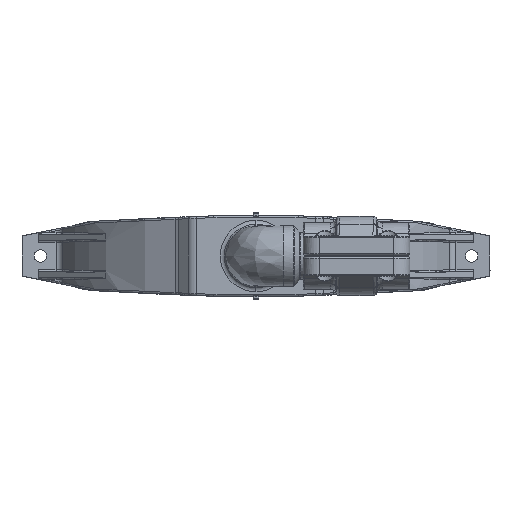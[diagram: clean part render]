
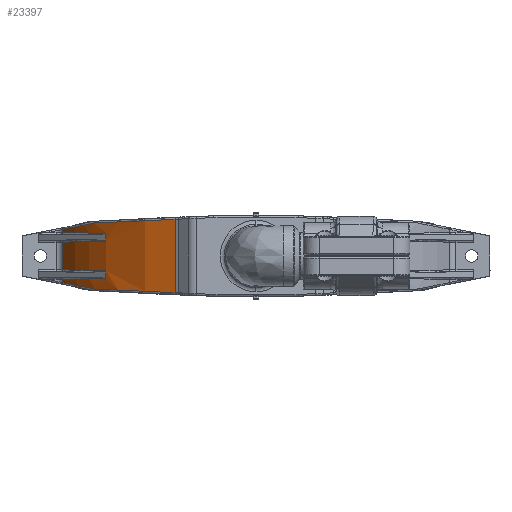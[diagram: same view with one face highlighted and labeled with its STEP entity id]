
A CAD part, front view. The second image highlights one B-rep face of the part: STEP entity #23397.
In plain terms, the highlighted cylindrical face has radius 119.405 mm (diameter 238.81 mm), a partial arc.
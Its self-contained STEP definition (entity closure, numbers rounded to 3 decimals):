
#3549=CARTESIAN_POINT('',(-89.445,-79.101,
-18.266));
#3554=CARTESIAN_POINT('',(-44.831,-110.669,
-20.29));
#3573=CARTESIAN_POINT('',(-107.071,-52.851,
-14.771));
#3730=CARTESIAN_POINT('',(-83.053,-85.789,
12.528));
#3849=CARTESIAN_POINT('',(-44.831,-110.669,
-20.291));
#3850=CARTESIAN_POINT('',(-44.964,-110.615,
-20.284));
#3851=CARTESIAN_POINT('',(-45.23,-110.507,
-20.272));
#3852=CARTESIAN_POINT('',(-45.76,-110.289,
-20.248));
#3853=CARTESIAN_POINT('',(-46.686,-109.901,
-20.205));
#3854=CARTESIAN_POINT('',(-48.532,-109.106,
-20.12));
#3855=CARTESIAN_POINT('',(-52.191,-107.432,
-19.952));
#3856=CARTESIAN_POINT('',(-57.319,-104.812,
-19.719));
#3857=CARTESIAN_POINT('',(-63.287,-101.316,
-19.449));
#3858=CARTESIAN_POINT('',(-69.04,-97.488,
-19.189));
#3859=CARTESIAN_POINT('',(-74.549,-93.345,
-18.94));
#3860=CARTESIAN_POINT('',(-78.927,-89.639,
-18.742));
#3861=CARTESIAN_POINT('',(-82.296,-86.529,
-18.59));
#3862=CARTESIAN_POINT('',(-84.345,-84.525,
-18.497));
#3863=CARTESIAN_POINT('',(-85.95,-82.887,
-18.424));
#3864=CARTESIAN_POINT('',(-87.135,-81.641,
-18.371));
#3865=CARTESIAN_POINT('',(-88.109,-80.589,
-18.326));
#3866=CARTESIAN_POINT('',(-88.782,-79.845,
-18.296));
#3867=CARTESIAN_POINT('',(-89.164,-79.418,
-18.279));
#3868=CARTESIAN_POINT('',(-89.354,-79.204,
-18.27));
#3869=CARTESIAN_POINT('',(-89.449,-79.097,
-18.266));
#3874=CARTESIAN_POINT('',(-89.445,-79.101,
-18.266));
#3875=CARTESIAN_POINT('',(-91.184,-77.132,
-17.921));
#3876=CARTESIAN_POINT('',(-94.533,-73.079,
-17.256));
#3877=CARTESIAN_POINT('',(-99.155,-66.669,
-16.341));
#3878=CARTESIAN_POINT('',(-103.389,-59.899,
-15.502));
#3879=CARTESIAN_POINT('',(-105.903,-55.217,
-15.003));
#3880=CARTESIAN_POINT('',(-107.071,-52.851,
-14.771));
#3885=DIRECTION('',(0.,0.,1.));
#3886=VECTOR('',#3885,1.663);
#3887=CARTESIAN_POINT('',(-107.071,-52.851,
-14.771));
#3888=LINE('',#3887,#3886);
#3892=CARTESIAN_POINT('',(-107.071,-52.851,
-13.108));
#3893=CARTESIAN_POINT('',(-101.025,-65.1,
-12.892));
#3894=CARTESIAN_POINT('',(-92.867,-76.287,
-12.695));
#3895=CARTESIAN_POINT('',(-83.053,-85.789,
-12.528));
#3900=DIRECTION('',(0.,0.,1.));
#3901=VECTOR('',#3900,4.312);
#3902=CARTESIAN_POINT('',(-83.053,-85.789,
-12.528));
#3903=LINE('',#3902,#3901);
#3907=CARTESIAN_POINT('',(-83.053,-85.789,
-8.216));
#3908=CARTESIAN_POINT('',(-92.867,-76.287,
-8.049));
#3909=CARTESIAN_POINT('',(-101.025,-65.1,
-7.852));
#3910=CARTESIAN_POINT('',(-107.071,-52.851,
-7.636));
#3915=DIRECTION('',(0.,0.,1.));
#3916=VECTOR('',#3915,15.273);
#3917=CARTESIAN_POINT('',(-107.071,-52.851,
-7.636));
#3918=LINE('',#3917,#3916);
#3922=CARTESIAN_POINT('',(-107.071,-52.851,
7.636));
#3923=CARTESIAN_POINT('',(-101.025,-65.1,
7.852));
#3924=CARTESIAN_POINT('',(-92.867,-76.287,
8.049));
#3925=CARTESIAN_POINT('',(-83.053,-85.789,
8.216));
#3930=DIRECTION('',(0.,0.,1.));
#3931=VECTOR('',#3930,4.312);
#3932=CARTESIAN_POINT('',(-83.053,-85.789,
8.216));
#3933=LINE('',#3932,#3931);
#3937=CARTESIAN_POINT('',(-83.053,-85.789,
12.528));
#3938=CARTESIAN_POINT('',(-92.867,-76.287,
12.695));
#3939=CARTESIAN_POINT('',(-101.025,-65.1,
12.892));
#3940=CARTESIAN_POINT('',(-107.071,-52.851,
13.108));
#3945=DIRECTION('',(0.,0.,1.));
#3946=VECTOR('',#3945,1.663);
#3947=CARTESIAN_POINT('',(-107.071,-52.851,
13.108));
#3948=LINE('',#3947,#3946);
#3952=CARTESIAN_POINT('',(-107.071,-52.851,
14.771));
#3953=CARTESIAN_POINT('',(-105.903,-55.218,
15.003));
#3954=CARTESIAN_POINT('',(-103.41,-59.871,
15.499));
#3955=CARTESIAN_POINT('',(-99.221,-66.58,
16.332));
#3956=CARTESIAN_POINT('',(-94.604,-72.994,
17.251));
#3957=CARTESIAN_POINT('',(-91.255,-77.052,
17.916));
#3958=CARTESIAN_POINT('',(-89.515,-79.022,
18.262));
#3963=CARTESIAN_POINT('',(-89.515,-79.022,
18.262));
#3964=CARTESIAN_POINT('',(-87.992,-80.747,
18.331));
#3965=CARTESIAN_POINT('',(-84.845,-84.108,
18.472));
#3966=CARTESIAN_POINT('',(-78.168,-90.453,
18.773));
#3967=CARTESIAN_POINT('',(-70.957,-96.206,
19.098));
#3968=CARTESIAN_POINT('',(-63.289,-101.312,
19.445));
#3969=CARTESIAN_POINT('',(-57.329,-104.806,
19.715));
#3970=CARTESIAN_POINT('',(-52.204,-107.426,
19.949));
#3971=CARTESIAN_POINT('',(-48.541,-109.102,
20.118));
#3972=CARTESIAN_POINT('',(-46.691,-109.899,
20.203));
#3973=CARTESIAN_POINT('',(-45.762,-110.288,
20.246));
#3974=CARTESIAN_POINT('',(-45.23,-110.507,
20.27));
#3975=CARTESIAN_POINT('',(-44.964,-110.615,
20.283));
#3976=CARTESIAN_POINT('',(-44.831,-110.669,
20.289));
#3981=DIRECTION('',(0.,0.,-1.));
#3982=VECTOR('',#3981,40.579);
#3983=CARTESIAN_POINT('',(-44.831,-110.669,
20.289));
#3984=LINE('',#3983,#3982);
#14807=VERTEX_POINT('',#3554);
#14808=VERTEX_POINT('',#3549);
#14809=VERTEX_POINT('',#3573);
#14835=VERTEX_POINT('',#3730);
#14836=CARTESIAN_POINT('',(-83.053,-85.789,
8.216));
#14837=VERTEX_POINT('',#14836);
#14850=CARTESIAN_POINT('',(-107.071,-52.851,
13.108));
#14851=CARTESIAN_POINT('',(-107.071,-52.851,
14.771));
#14852=VERTEX_POINT('',#14850);
#14853=VERTEX_POINT('',#14851);
#14854=CARTESIAN_POINT('',(-107.071,-52.851,
-13.108));
#14855=VERTEX_POINT('',#14854);
#14856=VERTEX_POINT('',#3895);
#14857=CARTESIAN_POINT('',(-83.053,-85.789,
-8.216));
#14858=VERTEX_POINT('',#14857);
#14859=VERTEX_POINT('',#3910);
#14860=CARTESIAN_POINT('',(-107.071,-52.851,
7.636));
#14861=VERTEX_POINT('',#14860);
#14862=VERTEX_POINT('',#3958);
#14863=VERTEX_POINT('',#3976);
#23366=CARTESIAN_POINT('',(0.,0.,22.262));
#23367=DIRECTION('',(0.,0.,-1.));
#23368=DIRECTION('',(-1.,0.,0.));
#23369=AXIS2_PLACEMENT_3D('',#23366,#23367,#23368);
#23370=CYLINDRICAL_SURFACE('',#23369,119.405);
#23371=ORIENTED_EDGE('',*,*,#22759,.T.);
#23372=ORIENTED_EDGE('',*,*,#22831,.T.);
#23374=ORIENTED_EDGE('',*,*,#23373,.T.);
#23376=ORIENTED_EDGE('',*,*,#23375,.T.);
#23378=ORIENTED_EDGE('',*,*,#23377,.T.);
#23380=ORIENTED_EDGE('',*,*,#23379,.T.);
#23382=ORIENTED_EDGE('',*,*,#23381,.T.);
#23384=ORIENTED_EDGE('',*,*,#23383,.T.);
#23385=ORIENTED_EDGE('',*,*,#23089,.T.);
#23387=ORIENTED_EDGE('',*,*,#23386,.T.);
#23388=ORIENTED_EDGE('',*,*,#23356,.T.);
#23390=ORIENTED_EDGE('',*,*,#23389,.T.);
#23392=ORIENTED_EDGE('',*,*,#23391,.T.);
#23394=ORIENTED_EDGE('',*,*,#23393,.T.);
#23395=EDGE_LOOP('',(#23371,#23372,#23374,#23376,#23378,#23380,#23382,#23384,
#23385,#23387,#23388,#23390,#23392,#23394));
#23396=FACE_OUTER_BOUND('',#23395,.F.);
#3870=B_SPLINE_CURVE_WITH_KNOTS('',3,(#3849,#3850,#3851,#3852,#3853,#3854,#3855,
#3856,#3857,#3858,#3859,#3860,#3861,#3862,#3863,#3864,#3865,#3866,#3867,#3868,
#3869),.UNSPECIFIED.,.F.,.F.,(4,1,1,1,1,1,1,1,1,1,1,1,1,1,1,1,1,1,4),(0.,
0.008,0.016,0.031,0.063,
0.125,0.25,0.375,0.5,
0.625,0.75,0.813,0.875,
0.906,0.938,0.969,0.984,
0.992,1.),.UNSPECIFIED.);
#3881=B_SPLINE_CURVE_WITH_KNOTS('',3,(#3874,#3875,#3876,#3877,#3878,#3879,
#3880),.UNSPECIFIED.,.F.,.F.,(4,1,1,1,4),(0.,0.25,
0.5,0.75,1.),.UNSPECIFIED.);
#3896=B_SPLINE_CURVE_WITH_KNOTS('',3,(#3892,#3893,#3894,#3895),.UNSPECIFIED.,
.F.,.F.,(4,4),(0.,1.),.UNSPECIFIED.);
#3911=B_SPLINE_CURVE_WITH_KNOTS('',3,(#3907,#3908,#3909,#3910),.UNSPECIFIED.,
.F.,.F.,(4,4),(0.,1.),.UNSPECIFIED.);
#3926=B_SPLINE_CURVE_WITH_KNOTS('',3,(#3922,#3923,#3924,#3925),.UNSPECIFIED.,
.F.,.F.,(4,4),(0.,1.),.UNSPECIFIED.);
#3941=B_SPLINE_CURVE_WITH_KNOTS('',3,(#3937,#3938,#3939,#3940),.UNSPECIFIED.,
.F.,.F.,(4,4),(0.,1.),.UNSPECIFIED.);
#3959=B_SPLINE_CURVE_WITH_KNOTS('',3,(#3952,#3953,#3954,#3955,#3956,#3957,
#3958),.UNSPECIFIED.,.F.,.F.,(4,1,1,1,4),(0.,0.25,
0.5,0.75,1.),.UNSPECIFIED.);
#3977=B_SPLINE_CURVE_WITH_KNOTS('',3,(#3963,#3964,#3965,#3966,#3967,#3968,#3969,
#3970,#3971,#3972,#3973,#3974,#3975,#3976),.UNSPECIFIED.,.F.,.F.,(4,1,1,1,1,1,1,
1,1,1,1,4),(0.,0.125,0.25,0.5,
0.625,0.75,0.875,0.937,
0.969,0.984,0.992,1.),.UNSPECIFIED.);
#22759=EDGE_CURVE('',#14807,#14808,#3870,.T.);
#22831=EDGE_CURVE('',#14808,#14809,#3881,.T.);
#23089=EDGE_CURVE('',#14837,#14835,#3933,.T.);
#23356=EDGE_CURVE('',#14852,#14853,#3948,.T.);
#23373=EDGE_CURVE('',#14809,#14855,#3888,.T.);
#23375=EDGE_CURVE('',#14855,#14856,#3896,.T.);
#23377=EDGE_CURVE('',#14856,#14858,#3903,.T.);
#23379=EDGE_CURVE('',#14858,#14859,#3911,.T.);
#23381=EDGE_CURVE('',#14859,#14861,#3918,.T.);
#23383=EDGE_CURVE('',#14861,#14837,#3926,.T.);
#23386=EDGE_CURVE('',#14835,#14852,#3941,.T.);
#23389=EDGE_CURVE('',#14853,#14862,#3959,.T.);
#23391=EDGE_CURVE('',#14862,#14863,#3977,.T.);
#23393=EDGE_CURVE('',#14863,#14807,#3984,.T.);
#23397=ADVANCED_FACE('',(#23396),#23370,.T.);
